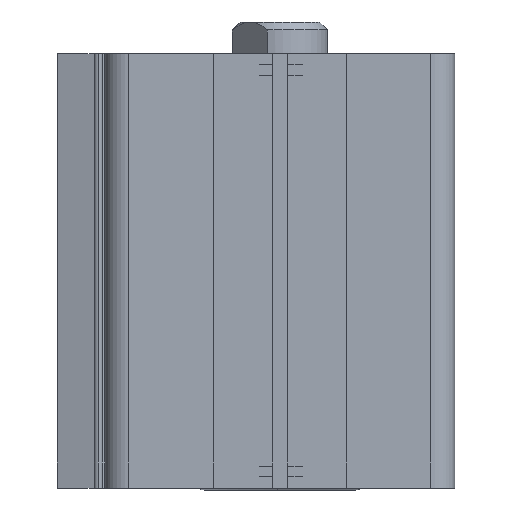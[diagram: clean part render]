
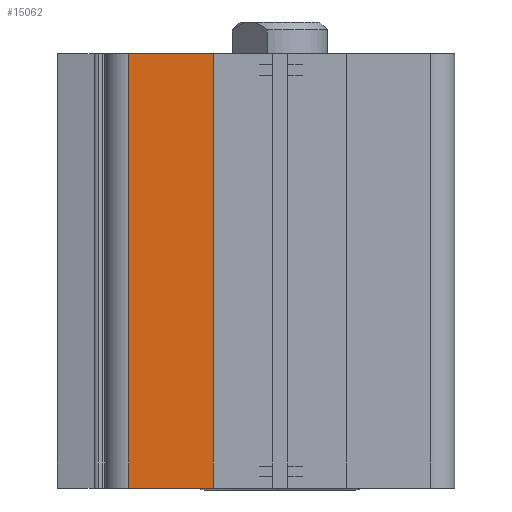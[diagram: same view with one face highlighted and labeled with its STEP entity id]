
A CAD part, left-side view. The second image highlights one B-rep face of the part: STEP entity #15062.
In plain terms, the highlighted planar face has unit normal (-1, 0, 0).
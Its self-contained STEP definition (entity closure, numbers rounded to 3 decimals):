
#300 = LINE ( 'NONE', #13285, #7413 ) ;
#833 = VERTEX_POINT ( 'NONE', #7759 ) ;
#1785 = VECTOR ( 'NONE', #5295, 1000. ) ;
#2508 = PLANE ( 'NONE',  #18667 ) ;
#2689 = CARTESIAN_POINT ( 'NONE',  ( -22., 8.35, 0. ) ) ;
#2935 = EDGE_CURVE ( 'NONE', #20139, #19724, #6430, .T. ) ;
#3557 = CARTESIAN_POINT ( 'NONE',  ( -22., 19., 54.6 ) ) ;
#3571 = CARTESIAN_POINT ( 'NONE',  ( -22., 19., 0. ) ) ;
#4205 = CARTESIAN_POINT ( 'NONE',  ( -22., 8.35, 54.6 ) ) ;
#4839 = DIRECTION ( 'NONE',  ( 0., 0., -1. ) ) ;
#5295 = DIRECTION ( 'NONE',  ( 0., 0., -1. ) ) ;
#5493 = VERTEX_POINT ( 'NONE', #14003 ) ;
#5592 = EDGE_CURVE ( 'NONE', #5493, #833, #300, .T. ) ;
#6425 = FACE_OUTER_BOUND ( 'NONE', #11110, .T. ) ;
#6430 = LINE ( 'NONE', #13119, #20286 ) ;
#6472 = DIRECTION ( 'NONE',  ( 0., -1., 0. ) ) ;
#7351 = DIRECTION ( 'NONE',  ( 1., 0., 0. ) ) ;
#7413 = VECTOR ( 'NONE', #12880, 1000. ) ;
#7759 = CARTESIAN_POINT ( 'NONE',  ( -22., 8.35, 54.6 ) ) ;
#8179 = LINE ( 'NONE', #17154, #1785 ) ;
#11110 = EDGE_LOOP ( 'NONE', ( #12298, #19845, #14701, #15667 ) ) ;
#12298 = ORIENTED_EDGE ( 'NONE', *, *, #2935, .T. ) ;
#12880 = DIRECTION ( 'NONE',  ( 0., -1., 0. ) ) ;
#13119 = CARTESIAN_POINT ( 'NONE',  ( -22., 8.35, 0. ) ) ;
#13285 = CARTESIAN_POINT ( 'NONE',  ( -22., 8.35, 54.6 ) ) ;
#13357 = EDGE_CURVE ( 'NONE', #833, #19724, #8179, .T. ) ;
#14003 = CARTESIAN_POINT ( 'NONE',  ( -22., 19., 54.6 ) ) ;
#14701 = ORIENTED_EDGE ( 'NONE', *, *, #5592, .F. ) ;
#15062 = ADVANCED_FACE ( 'NONE', ( #6425 ), #2508, .F. ) ;
#15667 = ORIENTED_EDGE ( 'NONE', *, *, #17050, .T. ) ;
#17050 = EDGE_CURVE ( 'NONE', #5493, #20139, #18772, .T. ) ;
#17154 = CARTESIAN_POINT ( 'NONE',  ( -22., 8.35, 54.6 ) ) ;
#18424 = VECTOR ( 'NONE', #4839, 1000. ) ;
#18667 = AXIS2_PLACEMENT_3D ( 'NONE', #4205, #7351, #19904 ) ;
#18772 = LINE ( 'NONE', #3557, #18424 ) ;
#19724 = VERTEX_POINT ( 'NONE', #2689 ) ;
#19845 = ORIENTED_EDGE ( 'NONE', *, *, #13357, .F. ) ;
#19904 = DIRECTION ( 'NONE',  ( 0., 0., -1. ) ) ;
#20139 = VERTEX_POINT ( 'NONE', #3571 ) ;
#20286 = VECTOR ( 'NONE', #6472, 1000. ) ;
